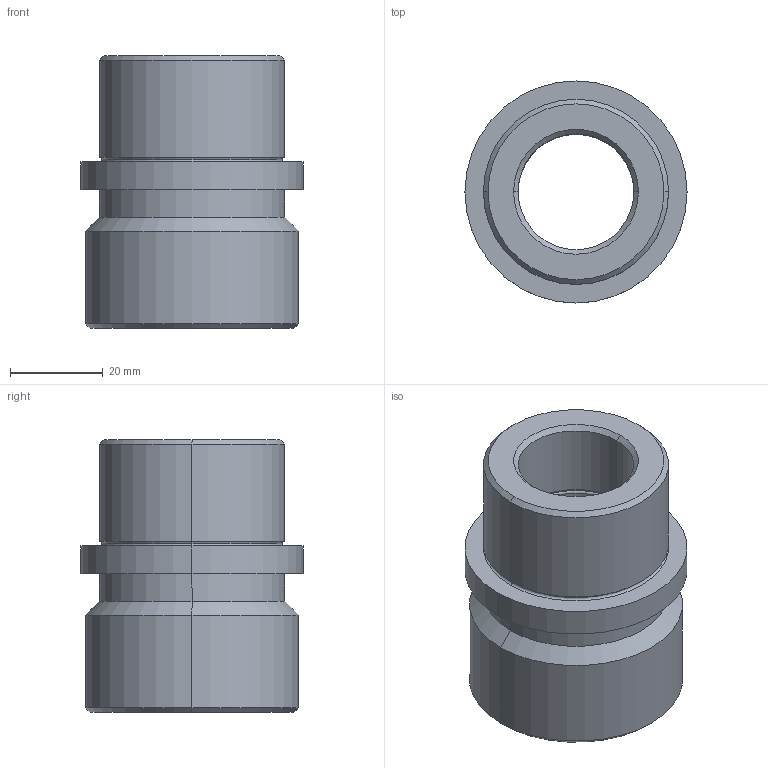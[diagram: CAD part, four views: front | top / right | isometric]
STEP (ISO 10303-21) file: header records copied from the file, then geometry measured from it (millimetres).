
FILE_DESCRIPTION (( 'STEP AP214' ), '1' );
FILE_NAME ('Casquillo SB500-25-59.STEP', '2018-11-27T08:03:37', ( '' ), ( '' ), 'SwSTEP 2.0', 'SolidWorks 2018', '' );
FILE_SCHEMA (( 'AUTOMOTIVE_DESIGN' ));
Length unit declared in the file: millimetre
Products named in the file (1): Casquillo SB500-25-59
Bounding box: 48 x 48 x 59 mm (x, y, z)
Volume: 57322.4 mm3; surface area: 15745 mm2
Topology: 1 solids, 1 shells, 40 faces, 80 edges, 44 vertices
Faces by surface type: cylinder 14, torus 12, cone 10, plane 4
Entity records: 1074 total; most frequent: DIRECTION 218, CARTESIAN_POINT 165, ORIENTED_EDGE 160, AXIS2_PLACEMENT_3D 97, EDGE_CURVE 80, CIRCLE 56, VERTEX_POINT 44, EDGE_LOOP 44
